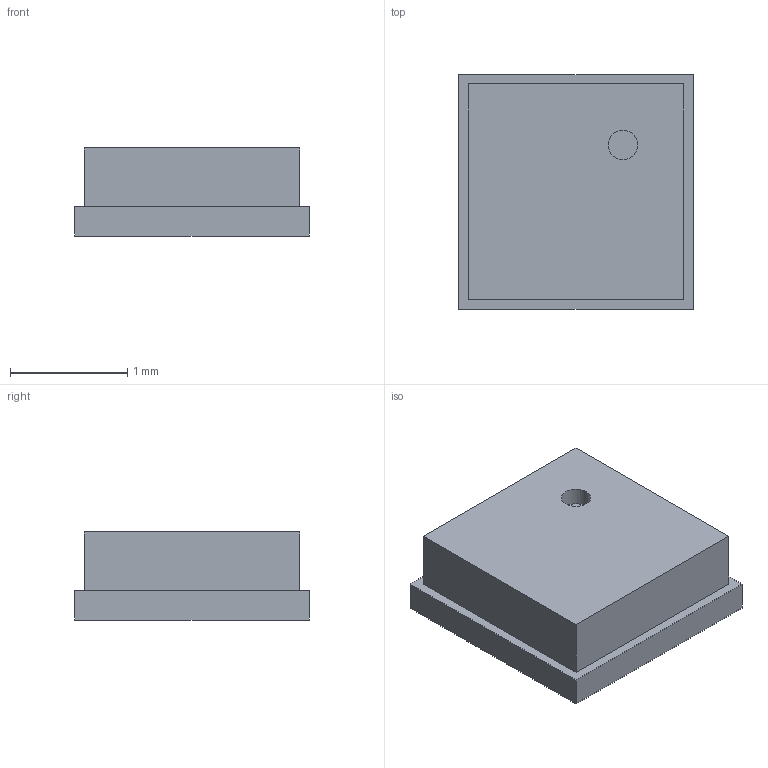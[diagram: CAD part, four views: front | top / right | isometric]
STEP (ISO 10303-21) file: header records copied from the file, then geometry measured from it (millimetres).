
FILE_DESCRIPTION(('Open CASCADE Model'),'2;1');
FILE_NAME('Open CASCADE Shape Model','2026-10-12T20:38:35',('Author'),( 'Open CASCADE'),'Open CASCADE STEP processor 8.0','build123d', 'Unknown');
FILE_SCHEMA(('AUTOMOTIVE_DESIGN { 1 0 10303 214 1 1 1 1 }'));
Length unit declared in the file: millimetre
Products named in the file (3): COMPOUND
Assembly tree (2 placements, depth 2):
  COMPOUND
    COMPOUND
    COMPOUND
Bounding box: 2 x 2 x 0.75 mm (x, y, z)
Volume: 2.7 mm3; surface area: 20.6 mm2
Topology: 2 solids, 2 shells, 14 faces, 27 edges, 18 vertices
Faces by surface type: plane 13, cylinder 1
Full cylindrical faces by diameter (mm): 0.25 x1
Entity records: 788 total; most frequent: DIRECTION 117, CARTESIAN_POINT 116, LINE 77, VECTOR 77, ORIENTED_EDGE 54, PCURVE 54, DEFINITIONAL_REPRESENTATION 54, EDGE_CURVE 27
